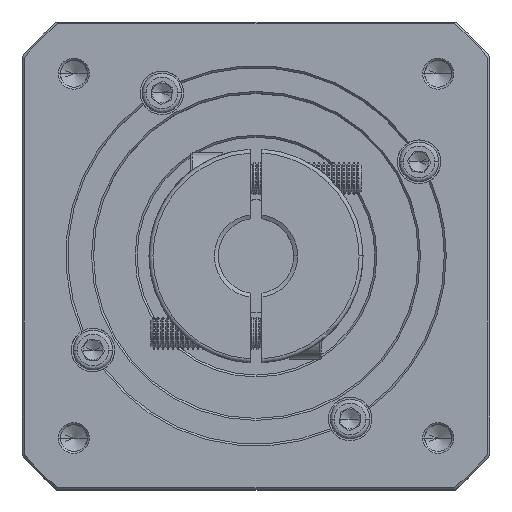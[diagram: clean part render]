
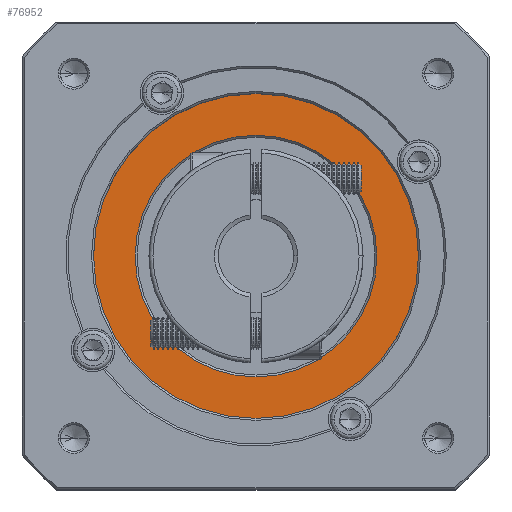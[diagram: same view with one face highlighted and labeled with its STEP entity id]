
A CAD part, top view. The second image highlights one B-rep face of the part: STEP entity #76952.
In plain terms, the highlighted planar face has unit normal (0, 0, 1).
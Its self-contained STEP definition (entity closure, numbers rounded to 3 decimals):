
#1272 = FACE_OUTER_BOUND ( 'NONE', #134878, .T. ) ;
#9240 = AXIS2_PLACEMENT_3D ( 'NONE', #42732, #22532, #139514 ) ;
#11764 = DIRECTION ( 'NONE',  ( 0., 0., 1. ) ) ;
#13934 = CARTESIAN_POINT ( 'NONE',  ( 4.534, 52.137, -34.026 ) ) ;
#19780 = CARTESIAN_POINT ( 'NONE',  ( 45.534, 21.637, -34.026 ) ) ;
#22532 = DIRECTION ( 'NONE',  ( 0., 0., 1. ) ) ;
#27329 = CARTESIAN_POINT ( 'NONE',  ( 45.534, 52.137, -34.026 ) ) ;
#27349 = ORIENTED_EDGE ( 'NONE', *, *, #41519, .T. ) ;
#27801 = VERTEX_POINT ( 'NONE', #103997 ) ;
#32960 = DIRECTION ( 'NONE',  ( 0., 0., -1. ) ) ;
#36523 = VERTEX_POINT ( 'NONE', #86939 ) ;
#36826 = PLANE ( 'NONE',  #105668 ) ;
#38715 = DIRECTION ( 'NONE',  ( 0., 0., 1. ) ) ;
#41519 = EDGE_CURVE ( 'NONE', #27801, #97145, #43222, .T. ) ;
#42732 = CARTESIAN_POINT ( 'NONE',  ( 45.534, 52.137, -34.026 ) ) ;
#43222 = CIRCLE ( 'NONE', #73278, 41. ) ;
#43693 = DIRECTION ( 'NONE',  ( 1., 0., 0. ) ) ;
#43951 = EDGE_CURVE ( 'NONE', #36523, #60763, #82651, .T. ) ;
#48928 = DIRECTION ( 'NONE',  ( 0., 0., -1. ) ) ;
#58521 = AXIS2_PLACEMENT_3D ( 'NONE', #86439, #32960, #98215 ) ;
#60763 = VERTEX_POINT ( 'NONE', #19780 ) ;
#66554 = EDGE_LOOP ( 'NONE', ( #76385, #107723 ) ) ;
#73278 = AXIS2_PLACEMENT_3D ( 'NONE', #130565, #11764, #43693 ) ;
#74129 = AXIS2_PLACEMENT_3D ( 'NONE', #27329, #48928, #134893 ) ;
#76385 = ORIENTED_EDGE ( 'NONE', *, *, #94426, .T. ) ;
#76952 = ADVANCED_FACE ( 'NONE', ( #1272, #78566 ), #36826, .T. ) ;
#78566 = FACE_BOUND ( 'NONE', #66554, .T. ) ;
#82651 = CIRCLE ( 'NONE', #74129, 30.5 ) ;
#86394 = CIRCLE ( 'NONE', #58521, 30.5 ) ;
#86439 = CARTESIAN_POINT ( 'NONE',  ( 45.534, 52.137, -34.026 ) ) ;
#86939 = CARTESIAN_POINT ( 'NONE',  ( 45.534, 82.637, -34.026 ) ) ;
#90321 = DIRECTION ( 'NONE',  ( 1., 0., 0. ) ) ;
#91404 = CIRCLE ( 'NONE', #9240, 41. ) ;
#94426 = EDGE_CURVE ( 'NONE', #60763, #36523, #86394, .T. ) ;
#97145 = VERTEX_POINT ( 'NONE', #13934 ) ;
#98215 = DIRECTION ( 'NONE',  ( 0., -1., 0. ) ) ;
#103997 = CARTESIAN_POINT ( 'NONE',  ( 86.534, 52.137, -34.026 ) ) ;
#105668 = AXIS2_PLACEMENT_3D ( 'NONE', #123312, #38715, #90321 ) ;
#107723 = ORIENTED_EDGE ( 'NONE', *, *, #43951, .T. ) ;
#117280 = EDGE_CURVE ( 'NONE', #97145, #27801, #91404, .T. ) ;
#120587 = ORIENTED_EDGE ( 'NONE', *, *, #117280, .T. ) ;
#123312 = CARTESIAN_POINT ( 'NONE',  ( 45.534, 52.137, -34.026 ) ) ;
#130565 = CARTESIAN_POINT ( 'NONE',  ( 45.534, 52.137, -34.026 ) ) ;
#134878 = EDGE_LOOP ( 'NONE', ( #27349, #120587 ) ) ;
#134893 = DIRECTION ( 'NONE',  ( 0., -1., 0. ) ) ;
#139514 = DIRECTION ( 'NONE',  ( 1., 0., 0. ) ) ;
